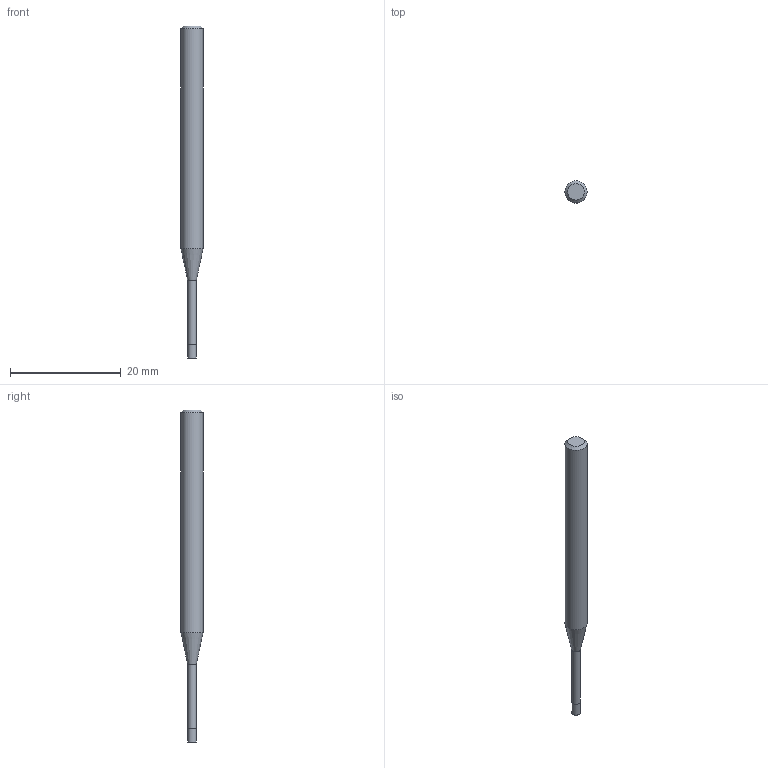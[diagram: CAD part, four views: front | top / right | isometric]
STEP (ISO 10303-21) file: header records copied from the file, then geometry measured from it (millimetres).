
FILE_DESCRIPTION((''),'2;1');
FILE_NAME('C:\Users\nsx150\AppData\Local\Temp\Mastercam 2021\17T8Q8S9EB\TEMP.step','2021-04-21T16:15:05',(''),(''),'STEP Write','Mastercam 2021 ... CNC Software, Inc.','');
FILE_SCHEMA(('AUTOMOTIVE_DESIGN'));
Length unit declared in the file: millimetre
Products named in the file (1): None
Bounding box: 4 x 4 x 60 mm (x, y, z)
Volume: 568 mm3; surface area: 640 mm2
Topology: 2 solids, 2 shells, 9 faces, 12 edges, 7 vertices
Faces by surface type: plane 4, cylinder 3, cone 2
Full cylindrical faces by diameter (mm): 1.55 x1, 1.6 x1, 4 x1
Entity records: 211 total; most frequent: DIRECTION 36, CARTESIAN_POINT 25, AXIS2_PLACEMENT_3D 18, ORIENTED_EDGE 14, EDGE_LOOP 14, STYLED_ITEM 12, ADVANCED_FACE 9, FACE_BOUND 8
